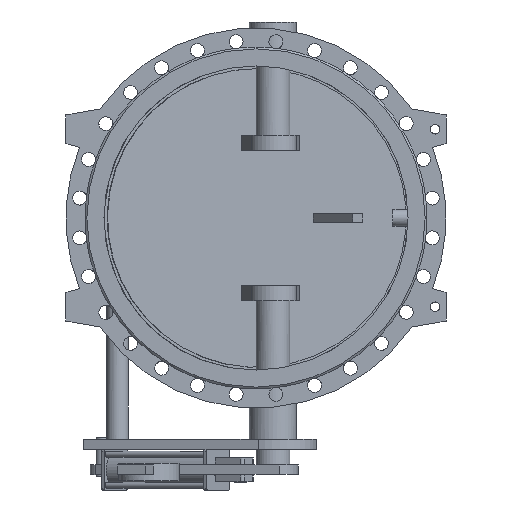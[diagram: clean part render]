
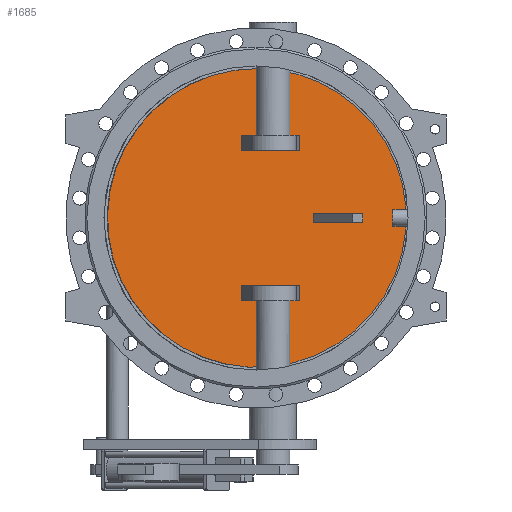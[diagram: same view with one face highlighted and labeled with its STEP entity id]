
A CAD part, front view. The second image highlights one B-rep face of the part: STEP entity #1685.
In plain terms, the highlighted planar face has unit normal (0.131, -0.991, 0).
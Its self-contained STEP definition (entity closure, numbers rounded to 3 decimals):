
#1685=ADVANCED_FACE('',(#3724,#3726,#3728,#3730),#3732,.T.);
#3724=FACE_BOUND('',#3725,.T.);
#3725=EDGE_LOOP('',(#5287));
#3726=FACE_BOUND('',#3727,.T.);
#3727=EDGE_LOOP('',(#5288,#5289,#5290,#5291));
#3728=FACE_BOUND('',#3729,.T.);
#3729=EDGE_LOOP('',(#5292,#5293,#5294,#5295));
#3730=FACE_BOUND('',#3731,.T.);
#3731=EDGE_LOOP('',(#5296,#5297,#5298,#5299));
#3732=PLANE('',#3733);
#3733=AXIS2_PLACEMENT_3D('',#3734,#3735,#3736);
#3734=CARTESIAN_POINT('',(-1.272,9.66,0.));
#3735=DIRECTION('',(0.131,-0.991,0.));
#3736=DIRECTION('',(0.,0.,-1.));
#5287=ORIENTED_EDGE('',*,*,#5996,.T.);
#5288=ORIENTED_EDGE('',*,*,#6022,.F.);
#5289=ORIENTED_EDGE('',*,*,#6023,.F.);
#5290=ORIENTED_EDGE('',*,*,#6024,.F.);
#5291=ORIENTED_EDGE('',*,*,#6025,.F.);
#5292=ORIENTED_EDGE('',*,*,#6026,.F.);
#5293=ORIENTED_EDGE('',*,*,#6027,.F.);
#5294=ORIENTED_EDGE('',*,*,#6028,.F.);
#5295=ORIENTED_EDGE('',*,*,#6029,.F.);
#5296=ORIENTED_EDGE('',*,*,#6030,.F.);
#5297=ORIENTED_EDGE('',*,*,#6031,.F.);
#5298=ORIENTED_EDGE('',*,*,#6032,.F.);
#5299=ORIENTED_EDGE('',*,*,#6033,.F.);
#5996=EDGE_CURVE('',#7064,#7064,#7065,.T.);
#6022=EDGE_CURVE('',#7110,#7111,#7112,.T.);
#6023=EDGE_CURVE('',#7113,#7110,#7114,.F.);
#6024=EDGE_CURVE('',#7115,#7113,#7116,.T.);
#6025=EDGE_CURVE('',#7111,#7115,#7117,.T.);
#6026=EDGE_CURVE('',#7118,#7119,#7120,.F.);
#6027=EDGE_CURVE('',#7121,#7118,#7122,.T.);
#6028=EDGE_CURVE('',#7123,#7121,#7124,.T.);
#6029=EDGE_CURVE('',#7119,#7123,#7125,.T.);
#6030=EDGE_CURVE('',#7126,#7127,#7128,.T.);
#6031=EDGE_CURVE('',#7129,#7126,#7130,.F.);
#6032=EDGE_CURVE('',#7131,#7129,#7132,.F.);
#6033=EDGE_CURVE('',#7127,#7131,#7133,.F.);
#7064=VERTEX_POINT('',#13443);
#7065=B_SPLINE_CURVE_WITH_KNOTS('',3,
(#13444,#13445,#13446,#13447,#13448,#13449,#13450,#13451,#13452,#13453,#13454,#13455,
#13456,#13457,#13458,#13459,#13460,#13461,#13462,#13463,#13464,#13465,#13466,#13467,
#13468,#13469,#13470,#13471,#13472,#13473,#13474,#13475,#13476,#13477,#13478,#13479,
#13480,#13481,#13482,#13483,#13484,#13485,#13486,#13487,#13488,#13489,#13490,#13491,
#13492,#13493,#13494),
.UNSPECIFIED.,.T.,.F.,
(4,1,1,1,1,1,1,1,1,1,1,1,1,1,1,1,1,1,1,1,1,1,1,1,1,1,1,1,1,1,1,1,1,1,1,1,1,1,1,1,
1,1,1,1,1,1,1,1,4),
(0.,0.021,0.042,0.063,0.084,
0.105,0.126,0.147,0.168,0.189,
0.211,0.232,0.253,0.274,0.295,
0.316,0.337,0.358,0.379,0.4,
0.421,0.442,0.463,0.484,0.505,
0.527,0.548,0.569,0.59,0.611,
0.632,0.653,0.674,0.695,0.716,
0.737,0.758,0.779,0.8,0.821,
0.842,0.864,0.885,0.906,0.927,
0.948,0.969,0.986,1.),
.UNSPECIFIED.);
#7110=VERTEX_POINT('',#14045);
#7111=VERTEX_POINT('',#14046);
#7112=LINE('',#14047,#14048);
#7113=VERTEX_POINT('',#14050);
#7114=LINE('',#14051,#14052);
#7115=VERTEX_POINT('',#14054);
#7116=LINE('',#14055,#14056);
#7117=LINE('',#14058,#14059);
#7118=VERTEX_POINT('',#14061);
#7119=VERTEX_POINT('',#14062);
#7120=LINE('',#14063,#14064);
#7121=VERTEX_POINT('',#14066);
#7122=LINE('',#14067,#14068);
#7123=VERTEX_POINT('',#14070);
#7124=LINE('',#14071,#14072);
#7125=LINE('',#14074,#14075);
#7126=VERTEX_POINT('',#14077);
#7127=VERTEX_POINT('',#14078);
#7128=LINE('',#14079,#14080);
#7129=VERTEX_POINT('',#14082);
#7130=LINE('',#14083,#14084);
#7131=VERTEX_POINT('',#14086);
#7132=LINE('',#14087,#14088);
#7133=LINE('',#14090,#14091);
#13443=CARTESIAN_POINT('',(2.611,10.171,442.));
#13444=CARTESIAN_POINT('',(2.611,10.171,442.));
#13445=CARTESIAN_POINT('',(-16.814,7.614,442.));
#13446=CARTESIAN_POINT('',(-55.709,2.493,439.433));
#13447=CARTESIAN_POINT('',(-113.11,-5.064,427.925));
#13448=CARTESIAN_POINT('',(-168.567,-12.365,408.921));
#13449=CARTESIAN_POINT('',(-221.061,-19.276,382.746));
#13450=CARTESIAN_POINT('',(-269.627,-25.67,349.883));
#13451=CARTESIAN_POINT('',(-313.427,-31.436,310.9));
#13452=CARTESIAN_POINT('',(-351.695,-36.474,266.485));
#13453=CARTESIAN_POINT('',(-383.763,-40.696,217.416));
#13454=CARTESIAN_POINT('',(-409.073,-44.028,164.549));
#13455=CARTESIAN_POINT('',(-427.186,-46.413,108.81));
#13456=CARTESIAN_POINT('',(-437.786,-47.808,51.171));
#13457=CARTESIAN_POINT('',(-440.688,-48.19,-7.361));
#13458=CARTESIAN_POINT('',(-435.843,-47.552,-65.765));
#13459=CARTESIAN_POINT('',(-423.335,-45.906,-123.022));
#13460=CARTESIAN_POINT('',(-403.379,-43.278,-178.132));
#13461=CARTESIAN_POINT('',(-376.324,-39.717,-230.132));
#13462=CARTESIAN_POINT('',(-342.639,-35.282,-278.114));
#13463=CARTESIAN_POINT('',(-302.912,-30.052,-321.237));
#13464=CARTESIAN_POINT('',(-257.834,-24.117,-358.745));
#13465=CARTESIAN_POINT('',(-208.194,-17.582,-389.98));
#13466=CARTESIAN_POINT('',(-154.858,-10.56,-414.392));
#13467=CARTESIAN_POINT('',(-98.761,-3.175,-431.551));
#13468=CARTESIAN_POINT('',(-40.887,4.445,-441.155));
#13469=CARTESIAN_POINT('',(17.75,12.164,-443.035));
#13470=CARTESIAN_POINT('',(76.121,19.849,-437.158));
#13471=CARTESIAN_POINT('',(133.201,27.364,-423.628));
#13472=CARTESIAN_POINT('',(187.99,34.577,-402.683));
#13473=CARTESIAN_POINT('',(239.529,41.362,-374.694));
#13474=CARTESIAN_POINT('',(286.917,47.601,-340.151));
#13475=CARTESIAN_POINT('',(329.326,53.184,-299.663));
#13476=CARTESIAN_POINT('',(366.016,58.014,-253.939));
#13477=CARTESIAN_POINT('',(396.348,62.008,-203.78));
#13478=CARTESIAN_POINT('',(419.795,65.094,-150.062));
#13479=CARTESIAN_POINT('',(435.948,67.221,-93.725));
#13480=CARTESIAN_POINT('',(444.526,68.35,-35.752));
#13481=CARTESIAN_POINT('',(445.381,68.463,22.846));
#13482=CARTESIAN_POINT('',(438.498,67.557,81.046));
#13483=CARTESIAN_POINT('',(423.995,65.647,137.831));
#13484=CARTESIAN_POINT('',(402.125,62.768,192.211));
#13485=CARTESIAN_POINT('',(373.267,58.969,243.236));
#13486=CARTESIAN_POINT('',(337.925,54.316,290.012));
#13487=CARTESIAN_POINT('',(296.711,48.89,331.723));
#13488=CARTESIAN_POINT('',(250.359,42.788,367.624));
#13489=CARTESIAN_POINT('',(199.733,36.123,397.062));
#13490=CARTESIAN_POINT('',(145.566,28.992,419.62));
#13491=CARTESIAN_POINT('',(92.142,21.958,433.952));
#13492=CARTESIAN_POINT('',(44.11,15.635,440.759));
#13493=CARTESIAN_POINT('',(15.294,11.841,442.));
#13494=CARTESIAN_POINT('',(2.611,10.171,442.));
#14045=CARTESIAN_POINT('',(293.931,48.524,-12.5));
#14046=CARTESIAN_POINT('',(293.931,48.524,12.5));
#14047=CARTESIAN_POINT('',(293.931,48.524,-12.5));
#14048=VECTOR('',#14049,1.);
#14049=DIRECTION('',(0.,0.,1.));
#14050=CARTESIAN_POINT('',(170.,32.208,-12.5));
#14051=CARTESIAN_POINT('',(293.931,48.524,-12.5));
#14052=VECTOR('',#14053,1.);
#14053=DIRECTION('',(-0.991,-0.131,0.));
#14054=CARTESIAN_POINT('',(170.,32.208,12.5));
#14055=CARTESIAN_POINT('',(170.,32.208,12.5));
#14056=VECTOR('',#14057,1.);
#14057=DIRECTION('',(0.,0.,-1.));
#14058=CARTESIAN_POINT('',(293.931,48.524,12.5));
#14059=VECTOR('',#14060,1.);
#14060=DIRECTION('',(-0.991,-0.131,0.));
#14061=CARTESIAN_POINT('',(-44.007,4.034,-245.));
#14062=CARTESIAN_POINT('',(129.407,26.864,-245.));
#14063=CARTESIAN_POINT('',(129.407,26.864,-245.));
#14064=VECTOR('',#14065,1.);
#14065=DIRECTION('',(-0.991,-0.131,0.));
#14066=CARTESIAN_POINT('',(-44.007,4.034,-200.));
#14067=CARTESIAN_POINT('',(-44.007,4.034,-200.));
#14068=VECTOR('',#14069,1.);
#14069=DIRECTION('',(0.,0.,-1.));
#14070=CARTESIAN_POINT('',(129.407,26.864,-200.));
#14071=CARTESIAN_POINT('',(129.407,26.864,-200.));
#14072=VECTOR('',#14073,1.);
#14073=DIRECTION('',(-0.991,-0.131,0.));
#14074=CARTESIAN_POINT('',(129.407,26.864,-245.));
#14075=VECTOR('',#14076,1.);
#14076=DIRECTION('',(0.,0.,1.));
#14077=CARTESIAN_POINT('',(129.407,26.864,245.));
#14078=CARTESIAN_POINT('',(-44.007,4.034,245.));
#14079=CARTESIAN_POINT('',(129.407,26.864,245.));
#14080=VECTOR('',#14081,1.);
#14081=DIRECTION('',(-0.991,-0.131,0.));
#14082=CARTESIAN_POINT('',(129.407,26.864,200.));
#14083=CARTESIAN_POINT('',(129.407,26.864,245.));
#14084=VECTOR('',#14085,1.);
#14085=DIRECTION('',(0.,0.,-1.));
#14086=CARTESIAN_POINT('',(-44.007,4.034,200.));
#14087=CARTESIAN_POINT('',(129.407,26.864,200.));
#14088=VECTOR('',#14089,1.);
#14089=DIRECTION('',(-0.991,-0.131,0.));
#14090=CARTESIAN_POINT('',(-44.007,4.034,200.));
#14091=VECTOR('',#14092,1.);
#14092=DIRECTION('',(0.,0.,1.));
